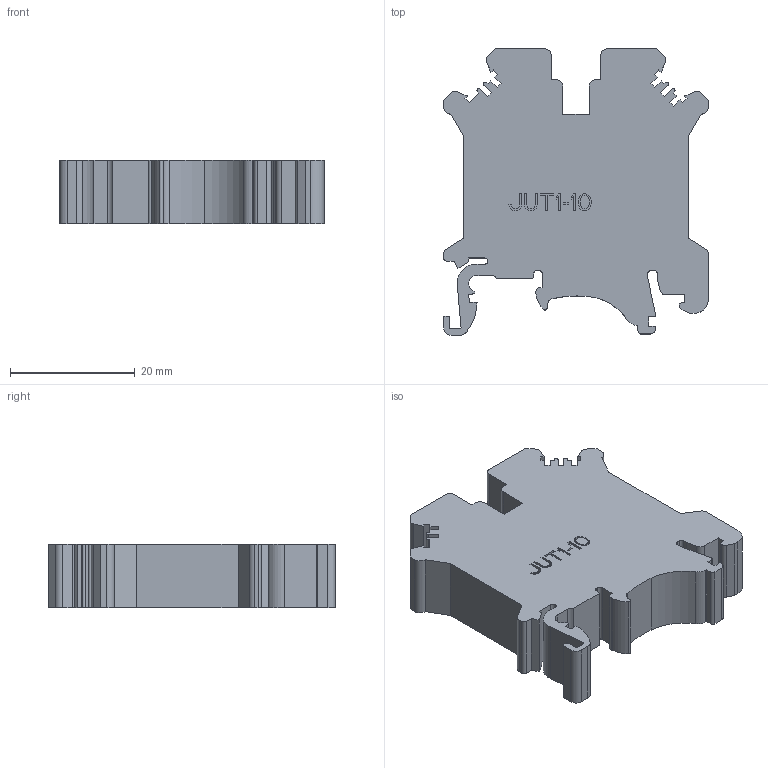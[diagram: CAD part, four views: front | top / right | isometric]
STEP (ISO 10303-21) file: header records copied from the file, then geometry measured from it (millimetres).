
FILE_DESCRIPTION(/* description */ (''),/* implementation_level */ '2;1');
FILE_NAME(/* name */ 'JUT1-10.stp',/* time_stamp */ '2022-11-01T08:51:18+08:00',/* author */ (''),/* organization */ (''),/* preprocessor_version */ 'ST-DEVELOPER v16.7',/* originating_system */ 'SIEMENS PLM Software NX 12.0',/* authorisation */ '');
FILE_SCHEMA (('AUTOMOTIVE_DESIGN { 1 0 10303 214 3 1 1 1 }'));
Length unit declared in the file: inch
Products named in the file (1): Admi12BCE3F4n8a2
Bounding box: 42.5 x 46 x 10.2 mm (x, y, z)
Volume: 13644.2 mm3; surface area: 5991 mm2
Topology: 1 solids, 1 shells, 287 faces, 825 edges, 550 vertices
Faces by surface type: plane 236, cylinder 51
Entity records: 9335 total; most frequent: CARTESIAN_POINT 1663, ORIENTED_EDGE 1650, DIRECTION 1503, EDGE_CURVE 825, LINE 723, VECTOR 723, VERTEX_POINT 550, AXIS2_PLACEMENT_3D 390
